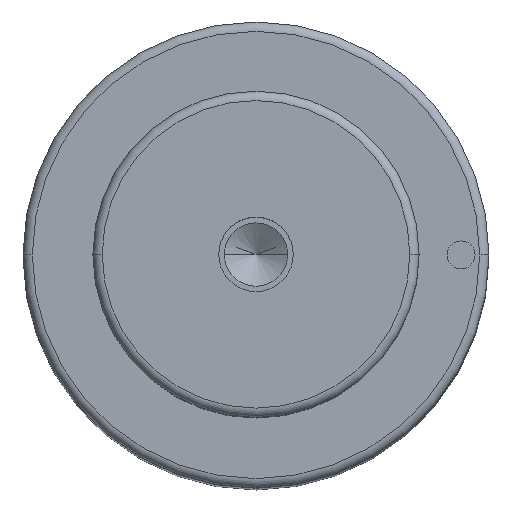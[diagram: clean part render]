
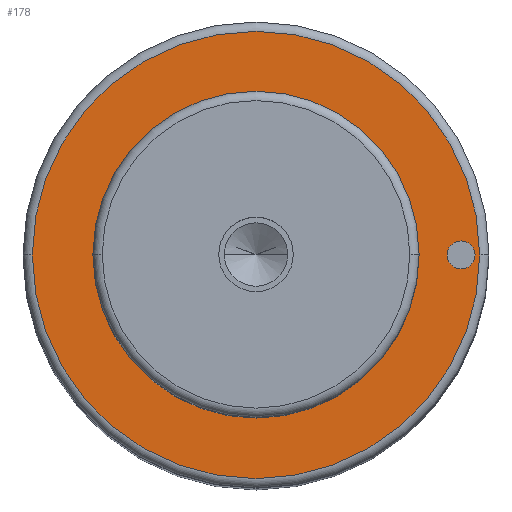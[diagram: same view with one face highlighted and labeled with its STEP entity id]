
A CAD part, top view. The second image highlights one B-rep face of the part: STEP entity #178.
In plain terms, the highlighted planar face has unit normal (0, 0, 1).
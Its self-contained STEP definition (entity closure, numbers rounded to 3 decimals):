
#105=PLANE('',#866);
#115=FACE_BOUND('',#283,.T.);
#116=FACE_BOUND('',#284,.T.);
#117=FACE_BOUND('',#285,.T.);
#178=ADVANCED_FACE('',(#115,#116,#117),#105,.T.);
#283=EDGE_LOOP('',(#473,#474));
#284=EDGE_LOOP('',(#475,#476));
#285=EDGE_LOOP('',(#477,#478));
#333=CIRCLE('',#834,17.5);
#334=CIRCLE('',#836,17.5);
#338=CIRCLE('',#841,24.);
#339=CIRCLE('',#843,24.);
#351=CIRCLE('',#864,1.5);
#352=CIRCLE('',#865,1.5);
#473=ORIENTED_EDGE('',*,*,#666,.F.);
#474=ORIENTED_EDGE('',*,*,#667,.F.);
#475=ORIENTED_EDGE('',*,*,#685,.F.);
#476=ORIENTED_EDGE('',*,*,#686,.F.);
#477=ORIENTED_EDGE('',*,*,#662,.T.);
#478=ORIENTED_EDGE('',*,*,#660,.T.);
#590=VERTEX_POINT('',#1233);
#591=VERTEX_POINT('',#1235);
#592=VERTEX_POINT('',#1241);
#595=VERTEX_POINT('',#1246);
#604=VERTEX_POINT('',#1285);
#605=VERTEX_POINT('',#1286);
#660=EDGE_CURVE('',#591,#590,#333,.T.);
#662=EDGE_CURVE('',#590,#591,#334,.T.);
#666=EDGE_CURVE('',#595,#592,#338,.T.);
#667=EDGE_CURVE('',#592,#595,#339,.T.);
#685=EDGE_CURVE('',#604,#605,#351,.T.);
#686=EDGE_CURVE('',#605,#604,#352,.T.);
#834=AXIS2_PLACEMENT_3D('',#1234,#985,#986);
#836=AXIS2_PLACEMENT_3D('',#1238,#990,#991);
#841=AXIS2_PLACEMENT_3D('',#1247,#1000,#1001);
#843=AXIS2_PLACEMENT_3D('',#1249,#1004,#1005);
#864=AXIS2_PLACEMENT_3D('',#1284,#1052,#1053);
#865=AXIS2_PLACEMENT_3D('',#1287,#1054,#1055);
#866=AXIS2_PLACEMENT_3D('',#1288,#1056,#1057);
#985=DIRECTION('',(0.,0.,-1.));
#986=DIRECTION('',(0.,1.,0.));
#990=DIRECTION('',(0.,0.,-1.));
#991=DIRECTION('',(0.,-1.,0.));
#1000=DIRECTION('',(0.,0.,-1.));
#1001=DIRECTION('',(0.,1.,0.));
#1004=DIRECTION('',(0.,0.,-1.));
#1005=DIRECTION('',(0.,-1.,0.));
#1052=DIRECTION('',(0.,0.,1.));
#1053=DIRECTION('',(0.,1.,0.));
#1054=DIRECTION('',(0.,0.,1.));
#1055=DIRECTION('',(0.,-1.,0.));
#1056=DIRECTION('',(0.,0.,1.));
#1057=DIRECTION('',(0.,-1.,0.));
#1233=CARTESIAN_POINT('',(-17.5,0.,125.));
#1234=CARTESIAN_POINT('',(0.,0.,125.));
#1235=CARTESIAN_POINT('',(17.5,0.,125.));
#1238=CARTESIAN_POINT('',(0.,0.,125.));
#1241=CARTESIAN_POINT('',(-24.,0.,125.));
#1246=CARTESIAN_POINT('',(24.,0.,125.));
#1247=CARTESIAN_POINT('',(0.,0.,125.));
#1249=CARTESIAN_POINT('',(0.,0.,125.));
#1284=CARTESIAN_POINT('',(22.,0.,125.));
#1285=CARTESIAN_POINT('',(20.5,0.,125.));
#1286=CARTESIAN_POINT('',(23.5,0.,125.));
#1287=CARTESIAN_POINT('',(22.,0.,125.));
#1288=CARTESIAN_POINT('',(0.,0.,125.));
